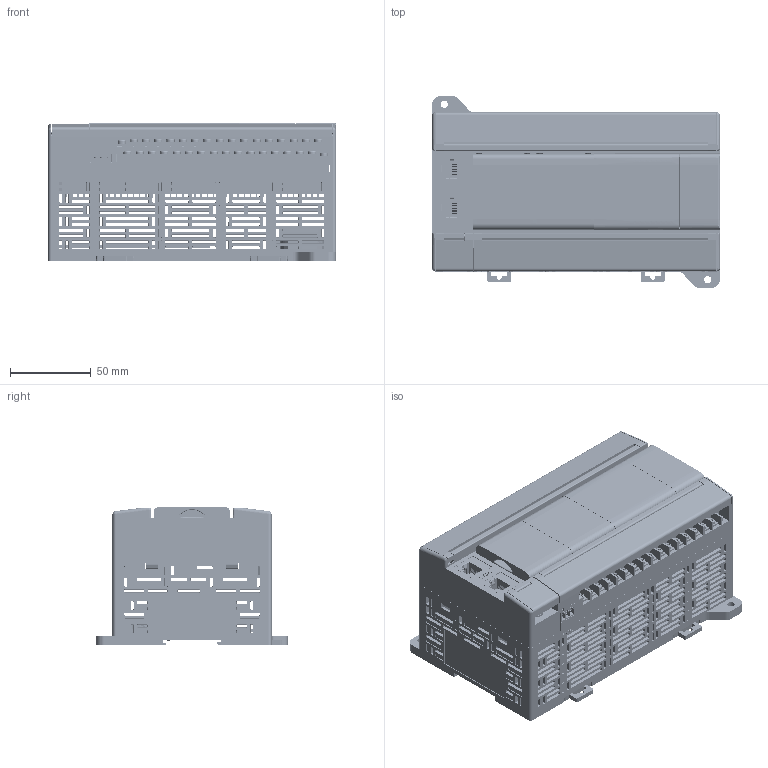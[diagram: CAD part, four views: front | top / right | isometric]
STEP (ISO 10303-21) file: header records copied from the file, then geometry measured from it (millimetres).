
FILE_DESCRIPTION((''),'2;1');
FILE_NAME('MP2-60CPU_ASM','2022-03-29T10:45:17',('Lenovo'),(''),'CREO PARAMETRIC BY PTC INC, 2020033','CREO PARAMETRIC BY PTC INC, 2020033','');
FILE_SCHEMA(('CONFIG_CONTROL_DESIGN'));
Products named in the file (29): MP2-60CPU-BASE; MP2-60CPU-COVER; MP2-60CPU-PCB-I; JL762D-76242E03; JL762D-76232E03; TONGZHU; MP2-60CPU-PCB-I_ASM; MP2-60CPU-FANGAI02; MP2-60CPU-FANGAI03; MP2-60CPU-FANGAI01; GAIBAN01; DBMK; BD-BAN; DBMK_ASM; MP2-60CPU-PCB-U; RJ45-180; MDC-8-04_6; OQ381-RIGHT-ANGLE; 2X10; TYPE-C-180; MS-12D27-G4; BH2-S-2639-000; MP2-60CPU-PCB-U_ASM; MP2-60CPU-DGZ; KAKOU; MP2-40CPU-PCB-P; MP2-40CPU-PCB-P_ASM; DIANCHIHE; MP2-60CPU_ASM
Assembly tree (32 placements, depth 3):
  MP2-60CPU_ASM
    MP2-60CPU-BASE
    MP2-60CPU-COVER
    MP2-60CPU-PCB-I_ASM
      MP2-60CPU-PCB-I
      JL762D-76242E03
      JL762D-76232E03
      TONGZHU
    MP2-60CPU-FANGAI02
    MP2-60CPU-FANGAI03
    MP2-60CPU-FANGAI01
    GAIBAN01
    DBMK_ASM  x2
      DBMK
      BD-BAN
    MP2-60CPU-PCB-U_ASM
      MP2-60CPU-PCB-U
      RJ45-180  x2
      MDC-8-04_6
      OQ381-RIGHT-ANGLE
      2X10
      TYPE-C-180
      MS-12D27-G4
      BH2-S-2639-000  x2
    MP2-60CPU-DGZ
    KAKOU  x2
    MP2-40CPU-PCB-P_ASM
      MP2-40CPU-PCB-P
    DIANCHIHE
Bounding box: 178 x 118.5 x 86 mm (x, y, z)
Volume: 363079.5 mm3; surface area: 384547.3 mm2
Topology: 32 solids, 115 shells, 13382 faces, 36641 edges, 24140 vertices
Faces by surface type: plane 9589, cone 1815, cylinder 1635, torus 203, bspline 104, sphere 34, extrusion 2
Entity records: 410025 total; most frequent: CARTESIAN_POINT 87802, ORIENTED_EDGE 68768, DIRECTION 63119, EDGE_CURVE 34388, VECTOR 25257, LINE 25256, VERTEX_POINT 22700, AXIS2_PLACEMENT_3D 18931
